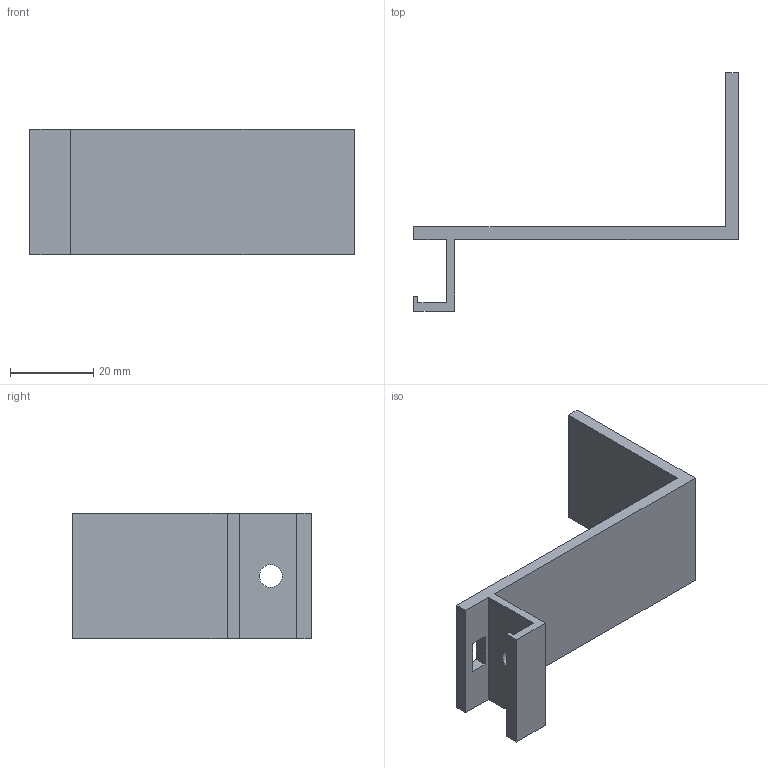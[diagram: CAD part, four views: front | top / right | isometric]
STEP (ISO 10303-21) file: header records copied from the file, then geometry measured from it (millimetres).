
FILE_DESCRIPTION(/* description */ (''),/* implementation_level */ '2;1');
FILE_NAME(/* name */ 'claw_1v2_kuchnia v10.step',/* time_stamp */ '2026-04-10T14:26:25+02:00',/* author */ (''),/* organization */ (''),/* preprocessor_version */ 'ST-DEVELOPER v20.1',/* originating_system */ 'Autodesk Translation Framework v14.24.0.0',/* authorisation */ '');
FILE_SCHEMA (('AUTOMOTIVE_DESIGN { 1 0 10303 214 3 1 1 }'));
Length unit declared in the file: millimetre
Products named in the file (1): (Niezapisany)
Bounding box: 77.8 x 57.2 x 30 mm (x, y, z)
Volume: 11726.2 mm3; surface area: 9442.4 mm2
Topology: 1 solids, 1 shells, 21 faces, 57 edges, 38 vertices
Faces by surface type: plane 20, cylinder 1
Full cylindrical faces by diameter (mm): 5.5 x1
Entity records: 694 total; most frequent: CARTESIAN_POINT 117, ORIENTED_EDGE 114, DIRECTION 103, EDGE_CURVE 57, LINE 55, VECTOR 55, VERTEX_POINT 38, EDGE_LOOP 25
